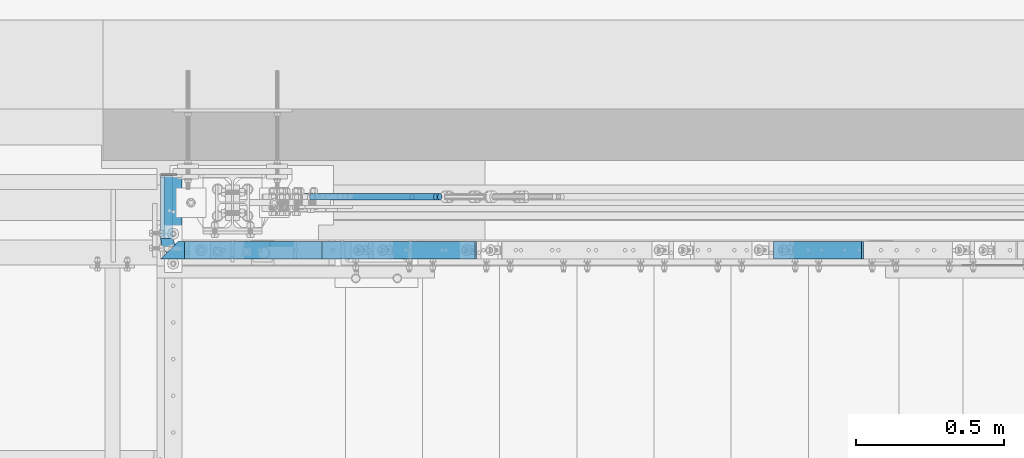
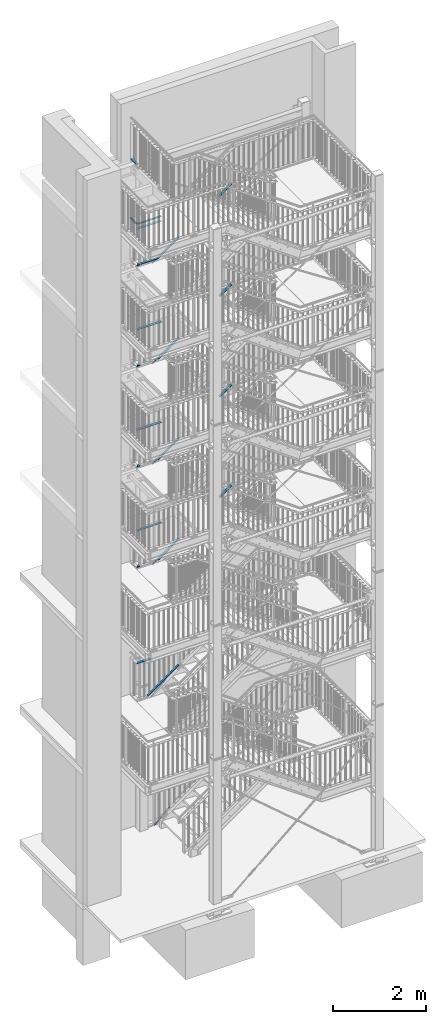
# One storey, part 137 of 817: 15 members, 14 beams, 1 opening.
"""IFC2X3 building model written with IfcOpenShell, lengths in millimetres."""

from ifc_helpers import new_model, entity, si_unit, converted_unit, frame, origin, origin_with_axes, origin_2d, place, context, project, spatial, polyline, rectangle, circle, hollow_circle, outline, extrude, clip, halfspace, material, element, save


model = new_model("IFC2X3")

# Units and contexts
model_context = context("Model", 3, precision=1e-09, world=origin_with_axes())
ifc_project = project(units=[si_unit("LENGTHUNIT", "METRE", prefix="MILLI"), si_unit("AREAUNIT", "SQUARE_METRE"), si_unit("VOLUMEUNIT", "CUBIC_METRE"), converted_unit("PLANEANGLEUNIT", "DEGREE", entity("IfcPlaneAngleMeasure", 0.01745329), si_unit("PLANEANGLEUNIT", "RADIAN"), dimensions=[0, 0, 0, 0, 0, 0, 0])], contexts=[model_context])

# Site, building, storey
site_placement = place(None, origin_with_axes())
site = spatial("IfcSite", under=ifc_project, at=site_placement, Name="Cnopf'sche Kinderklinik", CompositionType="ELEMENT")
building_placement = place(site_placement, origin_with_axes())
building = spatial("IfcBuilding", under=site, at=building_placement, Name="Struktur 1", CompositionType="ELEMENT")
storey_placement = place(building_placement, origin_with_axes())
storey = spatial("IfcBuildingStorey", under=building, at=storey_placement, Name="Default Storey", CompositionType="ELEMENT", Elevation=0.0)

# Members
ifc_material = material(Name="S235JR")
for number, where, z_axis, x_axis in (
    (1, (5121.750048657, 7536.736971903, 9790.6945381), (-0.836491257, 0.0, -0.54798027), (0.54798027, 0.0, -0.836491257)),
    (2, (5121.538067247, 7536.736971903, 12418.018198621), (-0.835719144, 0.0, -0.549157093), (0.549157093, 0.0, -0.835719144)),
    (3, (5121.992412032, 7536.736971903, 15052.324436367), (-0.837153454, 0.0, -0.546968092), (0.546968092, 0.0, -0.837153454)),
    (4, (5082.966649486, 7536.736971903, 3707.954491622), (-0.755906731, 0.0, -0.654679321), (0.654679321, 0.0, -0.755906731)),
    (5, (5175.77704378, 7536.736971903, 334.665259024), (-0.757867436, 0.0, -0.652408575), (0.652408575, 0.0, -0.757867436)),
    (6, (5121.635480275, 7536.736971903, 7158.869502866), (-0.836004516, 0.0, -0.548722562), (0.548722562, 0.0, -0.836004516)),
):
    element("IfcMember", number, at=place(None, frame(where, z_axis=z_axis, x_axis=x_axis)), inside=storey, material=ifc_material, Name="-", ObjectType="-", context=model_context, shape_type="SweptSolid", body=[
        extrude(circle(Radius=11.0, at=origin_2d()), origin(), (0.0, 0.0, -1.0), 500.0),
    ])
member_1_placement = place(None, frame((4900.549106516, 7356.736971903, 3912.909683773), z_axis=(-0.818063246, 0.0, -0.575128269), x_axis=(0.575128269, 0.0, -0.818063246)))
element("IfcMember", 7, at=member_1_placement, inside=storey, material=ifc_material, Name="Railing_Kneerail_Stair#2", ObjectType="Railing_Kneerail_Stair#2", context=model_context, shape_type="SweptSolid", body=[
    extrude(rectangle(XDim=10.0, YDim=60.0, at=origin_2d()), origin(), (0.0, 0.0, -1.0), 948.323741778),
])
member_2_placement = place(None, frame((5161.667486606, 7356.736971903, 7385.94824821), z_axis=(-0.810350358, 0.0, -0.585945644), x_axis=(0.585945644, 0.0, -0.810350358)))
element("IfcMember", 8, at=member_2_placement, inside=storey, material=ifc_material, Name="Railing_Kneerail_Stair#2", ObjectType="Railing_Kneerail_Stair#2", context=model_context, shape_type="SweptSolid", body=[
    extrude(rectangle(XDim=10.0, YDim=60.0, at=origin_2d()), origin(), (0.0, 0.0, -1.0), 635.054116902),
])
member_3_placement = place(None, frame((6682.143416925, 7356.736971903, 8485.369305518), z_axis=(-0.810350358, 0.0, -0.585945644), x_axis=(0.585945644, 0.0, -0.810350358)))
element("IfcMember", 9, at=member_3_placement, inside=storey, material=ifc_material, Name="Railing_Kneerail_Stair#4", ObjectType="Railing_Kneerail_Stair#4", context=model_context, shape_type="SweptSolid", body=[
    extrude(rectangle(XDim=10.0, YDim=60.0, at=origin_2d()), origin(), (0.0, 0.0, -1.0), 366.386282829),
])
member_4_placement = place(None, frame((5161.593434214, 7356.736971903, 10017.945605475), z_axis=(-0.810878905, 0.0, -0.585213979), x_axis=(0.585213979, 0.0, -0.810878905)))
element("IfcMember", 10, at=member_4_placement, inside=storey, material=ifc_material, Name="Railing_Kneerail_Stair#2", ObjectType="Railing_Kneerail_Stair#2", context=model_context, shape_type="SweptSolid", body=[
    extrude(rectangle(XDim=10.0, YDim=60.0, at=origin_2d()), origin(), (0.0, 0.0, -1.0), 634.7360112),
])
member_5_placement = place(None, frame((6682.139758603, 7356.736971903, 11115.328900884), z_axis=(-0.810878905, 0.0, -0.585213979), x_axis=(0.585213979, 0.0, -0.810878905)))
element("IfcMember", 11, at=member_5_placement, inside=storey, material=ifc_material, Name="Railing_Kneerail_Stair#4", ObjectType="Railing_Kneerail_Stair#4", context=model_context, shape_type="SweptSolid", body=[
    extrude(rectangle(XDim=10.0, YDim=60.0, at=origin_2d()), origin(), (0.0, 0.0, -1.0), 366.06352817),
])
member_6_placement = place(None, frame((5161.711739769, 7356.736971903, 12644.949833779), z_axis=(-0.810033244, 0.0, -0.586383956), x_axis=(0.586383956, 0.0, -0.810033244)))
element("IfcMember", 12, at=member_6_placement, inside=storey, material=ifc_material, Name="Railing_Kneerail_Stair#2", ObjectType="Railing_Kneerail_Stair#2", context=model_context, shape_type="SweptSolid", body=[
    extrude(rectangle(XDim=10.0, YDim=60.0, at=origin_2d()), origin(), (0.0, 0.0, -1.0), 635.245392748),
])
member_7_placement = place(None, frame((6682.145608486, 7356.736971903, 13745.593582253), z_axis=(-0.810033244, 0.0, -0.586383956), x_axis=(0.586383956, 0.0, -0.810033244)))
element("IfcMember", 13, at=member_7_placement, inside=storey, material=ifc_material, Name="Railing_Kneerail_Stair#4", ObjectType="Railing_Kneerail_Stair#4", context=model_context, shape_type="SweptSolid", body=[
    extrude(rectangle(XDim=10.0, YDim=60.0, at=origin_2d()), origin(), (0.0, 0.0, -1.0), 366.579920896),
])

# Beams
beam_1_placement = place(None, frame((4635.413402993, 7608.736971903, 16354.0), z_axis=(0.0, 1.0, 0.0), x_axis=(1.0, 0.0, 0.0)))
element("IfcBeam", 14, at=beam_1_placement, inside=storey, material=ifc_material, Name="Railing_Handrail_Landing#0", ObjectType="Railing_Handrail_Landing#0", context=model_context, shape_type="SweptSolid", body=[
    extrude(hollow_circle(Radius=21.2, WallThickness=3.2, at=origin_2d()), origin(), (0.0, 0.0, -1.0), 212.8),
])
beam_2_placement = place(None, frame((4635.413402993, 7395.936971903, 16354.0), z_axis=(0.0, 1.0, 0.0), x_axis=(1.0, 0.0, 0.0)))
element("IfcBeam", 15, at=beam_2_placement, inside=storey, material=ifc_material, Name="Elbow#0", ObjectType="Elbow#0", context=model_context, shape_type="SweptSolid", body=[
    entity("IfcRevolvedAreaSolid", entity("IfcCircleHollowProfileDef", "AREA", None, entity("IfcAxis2Placement2D", entity("IfcCartesianPoint", [0.0, 0.0])), 21.2, 3.2), entity("IfcAxis2Placement3D", entity("IfcCartesianPoint", [0.0, 0.0, 0.0])), entity("IfcAxis1Placement", entity("IfcCartesianPoint", [48.0, 0.0, 0.0]), entity("IfcDirection", [0.0, -1.0, 0.0])), 90.0),
])
beam_3_placement = place(None, frame((4683.413402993, 7347.936971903, 16354.0), z_axis=(-1.0, 0.0, 0.0), x_axis=(0.0, 0.0, -1.0)))
element("IfcBeam", 16, at=beam_3_placement, inside=storey, material=ifc_material, Name="Railing_Handrail_Landing#2", ObjectType="Railing_Handrail_Landing#2", context=model_context, shape_type="Clipping", body=[
    clip(extrude(hollow_circle(Radius=21.2, WallThickness=3.2, at=origin_2d()), origin(), (0.0, 0.0, -1.0), 584.801586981), halfspace(frame((13283.997609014, 7347.936971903, -4836.949255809), z_axis=(0.306904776, 0.0, 0.951740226), x_axis=(0.0, 1.0, 0.0)), True)),
])
beam_4_placement = place(None, frame((4709.213402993, 7356.736971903, 15279.0), z_axis=(-1.0, 0.0, 0.0), x_axis=(0.0, 0.0, -1.0)))
element("IfcBeam", 17, at=beam_4_placement, inside=storey, material=ifc_material, Name="Railing_Kneerail_Landing#1", ObjectType="Railing_Kneerail_Landing#1", context=model_context, shape_type="SweptSolid", body=[
    extrude(rectangle(XDim=10.0, YDim=60.0, at=origin_2d()), origin(), (0.0, 0.0, -1.0), 449.354793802),
])

# Members
member_8_placement = place(None, frame((5161.489133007, 7356.736971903, 15279.941905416), z_axis=(-0.811618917, 0.0, -0.584187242), x_axis=(0.584187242, 0.0, -0.811618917)))
element("IfcMember", 18, at=member_8_placement, inside=storey, material=ifc_material, Name="Railing_Kneerail_Stair#2", ObjectType="Railing_Kneerail_Stair#2", context=model_context, shape_type="SweptSolid", body=[
    extrude(rectangle(XDim=10.0, YDim=60.0, at=origin_2d()), origin(), (0.0, 0.0, -1.0), 634.29211171),
])
member_9_placement = place(None, frame((6682.134624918, 7356.736971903, 16374.472451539), z_axis=(-0.811618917, 0.0, -0.584187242), x_axis=(0.584187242, 0.0, -0.811618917)))
element("IfcMember", 19, at=member_9_placement, inside=storey, material=ifc_material, Name="Railing_Kneerail_Stair#4", ObjectType="Railing_Kneerail_Stair#4", context=model_context, shape_type="SweptSolid", body=[
    extrude(rectangle(XDim=10.0, YDim=60.0, at=origin_2d()), origin(), (0.0, 0.0, -1.0), 365.611618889),
])

# Beam, opening
beam_5_placement = place(None, frame((4656.713402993, 7361.736971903, 17899.0), z_axis=(0.0, -1.0, 0.0), x_axis=(0.0, 0.0, -1.0)))
beam_5 = element("IfcBeam", 20, at=beam_5_placement, inside=storey, material=ifc_material, Name="Railing_Kneerail_Landing#8", ObjectType="Railing_Kneerail_Landing#8", context=model_context, shape_type="SweptSolid", body=[
    extrude(rectangle(XDim=10.0, YDim=60.0, at=origin_2d()), origin(), (0.0, 0.0, -1.0), 250.0),
])
opening_placement = place(beam_5_placement, frame((60.0, 0.0, -250.0), z_axis=(-1.0, 0.0, 0.0), x_axis=(0.0, 1.0, 0.0)))
element("IfcOpeningElement", 21, at=opening_placement, cuts=beam_5, ObjectType="Opening", context=model_context, shape_type="SweptSolid", body=[
    extrude(outline(polyline([(30.001, -242.499), (-30.001, -242.499), (-30.001, -257.501), (30.001, -257.501), (30.001, -242.499)])), origin(), (0.0, 0.0, 1.0), 120.0),
])

# Beams
beam_6_placement = place(None, frame((4601.201776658, 7356.736971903, 4860.8), z_axis=(-1.0, 0.0, 0.0), x_axis=(0.0, 0.0, -1.0)))
element("IfcBeam", 22, at=beam_6_placement, inside=storey, material=ifc_material, Name="Railing_Kneerail_Landing#1000", ObjectType="Railing_Kneerail_Landing#1000", context=model_context, shape_type="Clipping", body=[
    clip(extrude(rectangle(XDim=10.0, YDim=60.0, at=origin_2d()), origin(), (0.0, 0.0, -1.0), 382.218059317), halfspace(frame((4860.8, 6000.475894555, 5957.462854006), z_axis=(0.0, 0.707106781, -0.707106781), x_axis=(0.0, -0.707106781, -0.707106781)), True)),
])
beam_7_placement = place(None, frame((4601.201776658, 7356.736971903, 7385.0), z_axis=(-1.0, 0.0, 0.0), x_axis=(0.0, 0.0, -1.0)))
element("IfcBeam", 23, at=beam_7_placement, inside=storey, material=ifc_material, Name="Railing_Kneerail_Landing#0", ObjectType="Railing_Kneerail_Landing#0", context=model_context, shape_type="Clipping", body=[
    clip(extrude(rectangle(XDim=10.0, YDim=60.0, at=origin_2d()), origin(), (0.0, 0.0, -1.0), 93.011626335), halfspace(frame((7385.0, 6000.475894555, 5957.462854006), z_axis=(0.0, 0.707106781, -0.707106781), x_axis=(0.0, -0.707106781, -0.707106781)), True)),
])
beam_8_placement = place(None, frame((4601.201776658, 7356.736971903, 8333.8), z_axis=(-1.0, 0.0, 0.0), x_axis=(0.0, 0.0, -1.0)))
element("IfcBeam", 24, at=beam_8_placement, inside=storey, material=ifc_material, Name="Railing_Kneerail_Landing#1000", ObjectType="Railing_Kneerail_Landing#1000", context=model_context, shape_type="Clipping", body=[
    clip(extrude(rectangle(XDim=10.0, YDim=60.0, at=origin_2d()), origin(), (0.0, 0.0, -1.0), 642.373307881), halfspace(frame((8333.8, 6000.475894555, 5957.462854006), z_axis=(0.0, 0.707106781, -0.707106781), x_axis=(0.0, -0.707106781, -0.707106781)), True)),
])
beam_9_placement = place(None, frame((4601.201776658, 7356.736971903, 10017.0), z_axis=(-1.0, 0.0, 0.0), x_axis=(0.0, 0.0, -1.0)))
element("IfcBeam", 25, at=beam_9_placement, inside=storey, material=ifc_material, Name="Railing_Kneerail_Landing#0", ObjectType="Railing_Kneerail_Landing#0", context=model_context, shape_type="Clipping", body=[
    clip(extrude(rectangle(XDim=10.0, YDim=60.0, at=origin_2d()), origin(), (0.0, 0.0, -1.0), 93.011626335), halfspace(frame((10017.0, 6000.475894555, 5957.462854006), z_axis=(0.0, 0.707106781, -0.707106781), x_axis=(0.0, -0.707106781, -0.707106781)), True)),
])
beam_10_placement = place(None, frame((4601.201776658, 7356.736971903, 10965.8), z_axis=(-1.0, 0.0, 0.0), x_axis=(0.0, 0.0, -1.0)))
element("IfcBeam", 26, at=beam_10_placement, inside=storey, material=ifc_material, Name="Railing_Kneerail_Landing#1000", ObjectType="Railing_Kneerail_Landing#1000", context=model_context, shape_type="Clipping", body=[
    clip(extrude(rectangle(XDim=10.0, YDim=60.0, at=origin_2d()), origin(), (0.0, 0.0, -1.0), 642.362739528), halfspace(frame((10965.8, 6000.475894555, 5957.462854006), z_axis=(0.0, 0.707106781, -0.707106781), x_axis=(0.0, -0.707106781, -0.707106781)), True)),
])
beam_11_placement = place(None, frame((4601.201776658, 7356.736971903, 13592.8), z_axis=(-1.0, 0.0, 0.0), x_axis=(0.0, 0.0, -1.0)))
element("IfcBeam", 27, at=beam_11_placement, inside=storey, material=ifc_material, Name="Railing_Kneerail_Landing#1000", ObjectType="Railing_Kneerail_Landing#1000", context=model_context, shape_type="Clipping", body=[
    clip(extrude(rectangle(XDim=10.0, YDim=60.0, at=origin_2d()), origin(), (0.0, 0.0, -1.0), 642.379643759), halfspace(frame((13592.8, 6000.475894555, 5957.462854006), z_axis=(0.0, 0.707106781, -0.707106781), x_axis=(0.0, -0.707106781, -0.707106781)), True)),
])
beam_12_placement = place(None, frame((4601.201776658, 7356.736971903, 12644.0), z_axis=(-1.0, 0.0, 0.0), x_axis=(0.0, 0.0, -1.0)))
element("IfcBeam", 28, at=beam_12_placement, inside=storey, material=ifc_material, Name="Railing_Kneerail_Landing#0", ObjectType="Railing_Kneerail_Landing#0", context=model_context, shape_type="Clipping", body=[
    clip(extrude(rectangle(XDim=10.0, YDim=60.0, at=origin_2d()), origin(), (0.0, 0.0, -1.0), 93.011626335), halfspace(frame((12644.0, 6000.475894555, 5957.462854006), z_axis=(0.0, 0.707106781, -0.707106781), x_axis=(0.0, -0.707106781, -0.707106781)), True)),
])
beam_13_placement = place(None, frame((4601.201776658, 7356.736971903, 15279.0), z_axis=(-1.0, 0.0, 0.0), x_axis=(0.0, 0.0, -1.0)))
element("IfcBeam", 29, at=beam_13_placement, inside=storey, material=ifc_material, Name="Railing_Kneerail_Landing#0", ObjectType="Railing_Kneerail_Landing#0", context=model_context, shape_type="Clipping", body=[
    clip(extrude(rectangle(XDim=10.0, YDim=60.0, at=origin_2d()), origin(), (0.0, 0.0, -1.0), 93.011626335), halfspace(frame((15279.0, 6000.475894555, 5957.462854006), z_axis=(0.0, 0.707106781, -0.707106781), x_axis=(0.0, -0.707106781, -0.707106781)), True)),
])
beam_14_placement = place(None, frame((4601.201776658, 7356.736971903, 16227.8), z_axis=(-1.0, 0.0, 0.0), x_axis=(0.0, 0.0, -1.0)))
element("IfcBeam", 30, at=beam_14_placement, inside=storey, material=ifc_material, Name="Railing_Kneerail_Landing#1000", ObjectType="Railing_Kneerail_Landing#1000", context=model_context, shape_type="Clipping", body=[
    clip(extrude(rectangle(XDim=10.0, YDim=60.0, at=origin_2d()), origin(), (0.0, 0.0, -1.0), 642.347925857), halfspace(frame((16227.8, 6000.475894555, 5957.462854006), z_axis=(0.0, 0.707106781, -0.707106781), x_axis=(0.0, -0.707106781, -0.707106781)), True)),
])

save(model, "model.ifc")
